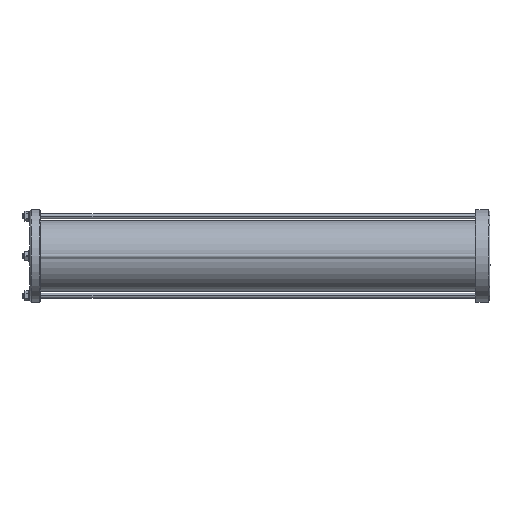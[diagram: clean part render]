
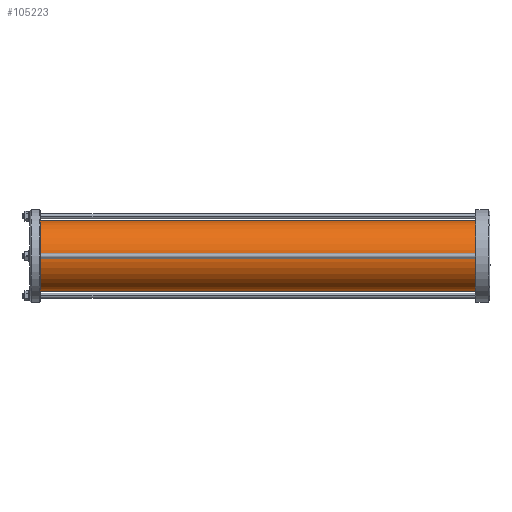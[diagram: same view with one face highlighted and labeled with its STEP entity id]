
A CAD part, left-side view. The second image highlights one B-rep face of the part: STEP entity #105223.
In plain terms, the highlighted cylindrical face has radius 41 mm (diameter 82 mm), a partial arc.
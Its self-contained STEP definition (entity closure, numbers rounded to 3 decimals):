
#1177 = CARTESIAN_POINT ( 'NONE',  ( 40.045, 534.458, 142.617 ) ) ;
#3208 = LINE ( 'NONE', #20868, #39409 ) ;
#4733 = ORIENTED_EDGE ( 'NONE', *, *, #61519, .T. ) ;
#8741 = CARTESIAN_POINT ( 'NONE',  ( 40.045, 23.458, 101.617 ) ) ;
#13682 = EDGE_CURVE ( 'NONE', #45795, #25543, #45792, .T. ) ;
#13825 = AXIS2_PLACEMENT_3D ( 'NONE', #67048, #22636, #58316 ) ;
#18164 = DIRECTION ( 'NONE',  ( 0., 1., 0. ) ) ;
#20868 = CARTESIAN_POINT ( 'NONE',  ( 40.045, 534.458, 60.617 ) ) ;
#22636 = DIRECTION ( 'NONE',  ( 0., -1., 0. ) ) ;
#23826 = ORIENTED_EDGE ( 'NONE', *, *, #13682, .F. ) ;
#24674 = EDGE_LOOP ( 'NONE', ( #23826, #28439, #4733, #78319 ) ) ;
#25543 = VERTEX_POINT ( 'NONE', #49760 ) ;
#28439 = ORIENTED_EDGE ( 'NONE', *, *, #48595, .F. ) ;
#33600 = CARTESIAN_POINT ( 'NONE',  ( 40.045, 534.458, 142.617 ) ) ;
#35805 = DIRECTION ( 'NONE',  ( 0., 0., 1. ) ) ;
#39409 = VECTOR ( 'NONE', #109290, 1000. ) ;
#39952 = VECTOR ( 'NONE', #63918, 1000. ) ;
#44506 = CIRCLE ( 'NONE', #109978, 41. ) ;
#45792 = LINE ( 'NONE', #1177, #39952 ) ;
#45795 = VERTEX_POINT ( 'NONE', #33600 ) ;
#46765 = CARTESIAN_POINT ( 'NONE',  ( 40.045, 23.458, 60.617 ) ) ;
#48595 = EDGE_CURVE ( 'NONE', #85025, #45795, #88780, .T. ) ;
#49760 = CARTESIAN_POINT ( 'NONE',  ( 40.045, 23.458, 142.617 ) ) ;
#52040 = DIRECTION ( 'NONE',  ( 0., 1., 0. ) ) ;
#58316 = DIRECTION ( 'NONE',  ( 0., 0., -1. ) ) ;
#58879 = CYLINDRICAL_SURFACE ( 'NONE', #13825, 41. ) ;
#61519 = EDGE_CURVE ( 'NONE', #85025, #105672, #3208, .T. ) ;
#63918 = DIRECTION ( 'NONE',  ( 0., -1., 0. ) ) ;
#67048 = CARTESIAN_POINT ( 'NONE',  ( 40.045, 534.458, 101.617 ) ) ;
#70823 = EDGE_CURVE ( 'NONE', #105672, #25543, #44506, .T. ) ;
#71691 = CARTESIAN_POINT ( 'NONE',  ( 40.045, 534.458, 60.617 ) ) ;
#77026 = FACE_OUTER_BOUND ( 'NONE', #24674, .T. ) ;
#78319 = ORIENTED_EDGE ( 'NONE', *, *, #70823, .T. ) ;
#85025 = VERTEX_POINT ( 'NONE', #71691 ) ;
#88780 = CIRCLE ( 'NONE', #113168, 41. ) ;
#97665 = DIRECTION ( 'NONE',  ( 0., 0., 1. ) ) ;
#98223 = CARTESIAN_POINT ( 'NONE',  ( 40.045, 534.458, 101.617 ) ) ;
#105223 = ADVANCED_FACE ( 'NONE', ( #77026 ), #58879, .T. ) ;
#105672 = VERTEX_POINT ( 'NONE', #46765 ) ;
#109290 = DIRECTION ( 'NONE',  ( 0., -1., 0. ) ) ;
#109978 = AXIS2_PLACEMENT_3D ( 'NONE', #8741, #18164, #35805 ) ;
#113168 = AXIS2_PLACEMENT_3D ( 'NONE', #98223, #52040, #97665 ) ;
